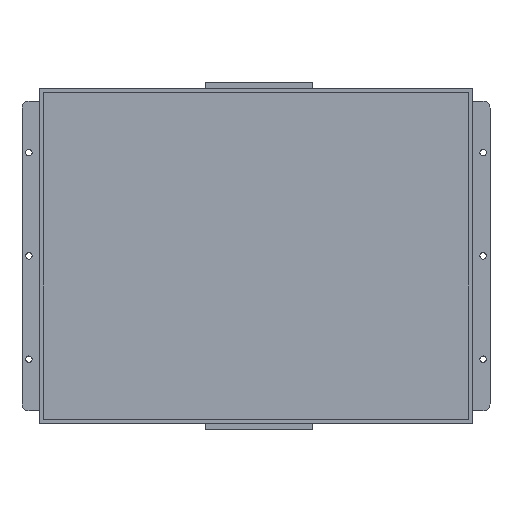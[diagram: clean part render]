
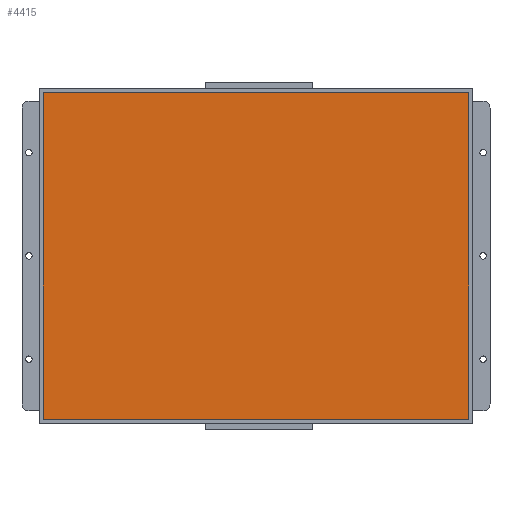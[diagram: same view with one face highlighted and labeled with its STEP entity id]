
A CAD part, top view. The second image highlights one B-rep face of the part: STEP entity #4415.
In plain terms, the highlighted planar face has unit normal (0, 0, 1).
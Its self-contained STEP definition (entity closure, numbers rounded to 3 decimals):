
#4300=DIRECTION('',(0.,-1.,0.));
#4301=VECTOR('',#4300,181.);
#4302=CARTESIAN_POINT('',(-69.5,90.5,1.6));
#4303=LINE('',#4302,#4301);
#4304=DIRECTION('',(-1.,0.,0.));
#4305=VECTOR('',#4304,139.);
#4306=CARTESIAN_POINT('',(69.5,90.5,1.6));
#4307=LINE('',#4306,#4305);
#4308=DIRECTION('',(0.,1.,0.));
#4309=VECTOR('',#4308,181.);
#4310=CARTESIAN_POINT('',(69.5,-90.5,1.6));
#4311=LINE('',#4310,#4309);
#4312=DIRECTION('',(1.,0.,0.));
#4313=VECTOR('',#4312,139.);
#4314=CARTESIAN_POINT('',(-69.5,-90.5,1.6));
#4315=LINE('',#4314,#4313);
#4324=CARTESIAN_POINT('',(-69.5,90.5,1.6));
#4325=CARTESIAN_POINT('',(-69.5,-90.5,1.6));
#4326=VERTEX_POINT('',#4324);
#4327=VERTEX_POINT('',#4325);
#4328=CARTESIAN_POINT('',(69.5,-90.5,1.6));
#4329=VERTEX_POINT('',#4328);
#4330=CARTESIAN_POINT('',(69.5,90.5,1.6));
#4331=VERTEX_POINT('',#4330);
#4404=CARTESIAN_POINT('',(0.,0.,1.6));
#4405=DIRECTION('',(0.,0.,1.));
#4406=DIRECTION('',(1.,0.,0.));
#4407=AXIS2_PLACEMENT_3D('',#4404,#4405,#4406);
#4408=PLANE('',#4407);
#4409=ORIENTED_EDGE('',*,*,#4356,.F.);
#4410=ORIENTED_EDGE('',*,*,#4371,.F.);
#4411=ORIENTED_EDGE('',*,*,#4385,.F.);
#4412=ORIENTED_EDGE('',*,*,#4398,.F.);
#4413=EDGE_LOOP('',(#4409,#4410,#4411,#4412));
#4414=FACE_OUTER_BOUND('',#4413,.F.);
#4356=EDGE_CURVE('',#4326,#4327,#4303,.T.);
#4371=EDGE_CURVE('',#4331,#4326,#4307,.T.);
#4385=EDGE_CURVE('',#4329,#4331,#4311,.T.);
#4398=EDGE_CURVE('',#4327,#4329,#4315,.T.);
#4415=ADVANCED_FACE('',(#4414),#4408,.T.);
